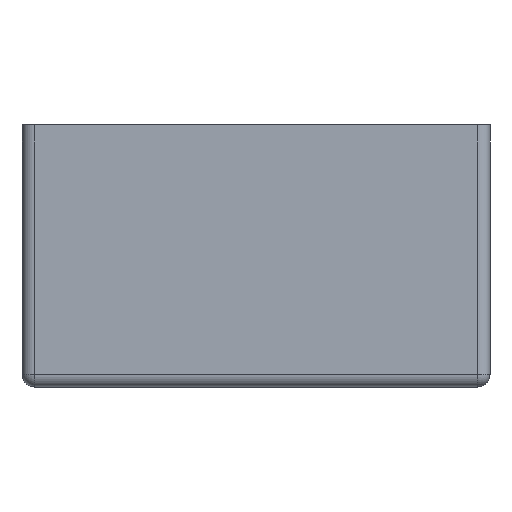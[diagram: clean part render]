
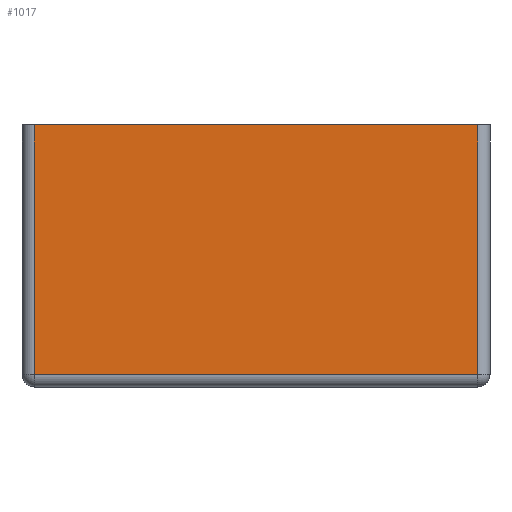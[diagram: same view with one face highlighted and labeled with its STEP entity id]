
A CAD part, left-side view. The second image highlights one B-rep face of the part: STEP entity #1017.
In plain terms, the highlighted planar face has unit normal (-1, 0, 0).
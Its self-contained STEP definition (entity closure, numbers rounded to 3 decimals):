
#56 = PLANE ( 'NONE',  #1960 ) ;
#131 = EDGE_CURVE ( 'NONE', #965, #2026, #133, .T. ) ;
#133 = LINE ( 'NONE', #2829, #3231 ) ;
#135 = VECTOR ( 'NONE', #1220, 1000. ) ;
#324 = VECTOR ( 'NONE', #1345, 1000. ) ;
#558 = CARTESIAN_POINT ( 'NONE',  ( -90., 37.5, 115.042 ) ) ;
#821 = DIRECTION ( 'NONE',  ( 0., -1., 0. ) ) ;
#965 = VERTEX_POINT ( 'NONE', #1366 ) ;
#990 = VECTOR ( 'NONE', #1456, 1000. ) ;
#1017 = ADVANCED_FACE ( 'NONE', ( #1065 ), #56, .T. ) ;
#1054 = ORIENTED_EDGE ( 'NONE', *, *, #2907, .T. ) ;
#1065 = FACE_OUTER_BOUND ( 'NONE', #2410, .T. ) ;
#1135 = ORIENTED_EDGE ( 'NONE', *, *, #131, .T. ) ;
#1220 = DIRECTION ( 'NONE',  ( 0., 1., 0. ) ) ;
#1345 = DIRECTION ( 'NONE',  ( 0., -1., 0. ) ) ;
#1358 = DIRECTION ( 'NONE',  ( 0., 0., 1. ) ) ;
#1366 = CARTESIAN_POINT ( 'NONE',  ( -90., -35.5, 0. ) ) ;
#1419 = CARTESIAN_POINT ( 'NONE',  ( -90., 35.5, -2. ) ) ;
#1456 = DIRECTION ( 'NONE',  ( 0., 0., -1. ) ) ;
#1664 = LINE ( 'NONE', #1419, #990 ) ;
#1697 = CARTESIAN_POINT ( 'NONE',  ( -90., 37.5, 40. ) ) ;
#1725 = VERTEX_POINT ( 'NONE', #3043 ) ;
#1786 = VERTEX_POINT ( 'NONE', #2618 ) ;
#1835 = EDGE_CURVE ( 'NONE', #1725, #1786, #1664, .T. ) ;
#1875 = ORIENTED_EDGE ( 'NONE', *, *, #1835, .T. ) ;
#1931 = CARTESIAN_POINT ( 'NONE',  ( -90., -35.5, 40. ) ) ;
#1960 = AXIS2_PLACEMENT_3D ( 'NONE', #558, #2324, #821 ) ;
#1978 = ORIENTED_EDGE ( 'NONE', *, *, #2724, .T. ) ;
#2026 = VERTEX_POINT ( 'NONE', #1931 ) ;
#2140 = LINE ( 'NONE', #1697, #135 ) ;
#2324 = DIRECTION ( 'NONE',  ( -1., 0., 0. ) ) ;
#2410 = EDGE_LOOP ( 'NONE', ( #1054, #1875, #1978, #1135 ) ) ;
#2618 = CARTESIAN_POINT ( 'NONE',  ( -90., 35.5, 0. ) ) ;
#2724 = EDGE_CURVE ( 'NONE', #1786, #965, #2996, .T. ) ;
#2829 = CARTESIAN_POINT ( 'NONE',  ( -90., -35.5, 40. ) ) ;
#2907 = EDGE_CURVE ( 'NONE', #2026, #1725, #2140, .T. ) ;
#2996 = LINE ( 'NONE', #3072, #324 ) ;
#3043 = CARTESIAN_POINT ( 'NONE',  ( -90., 35.5, 40. ) ) ;
#3072 = CARTESIAN_POINT ( 'NONE',  ( -90., 37.5, 0. ) ) ;
#3231 = VECTOR ( 'NONE', #1358, 1000. ) ;
